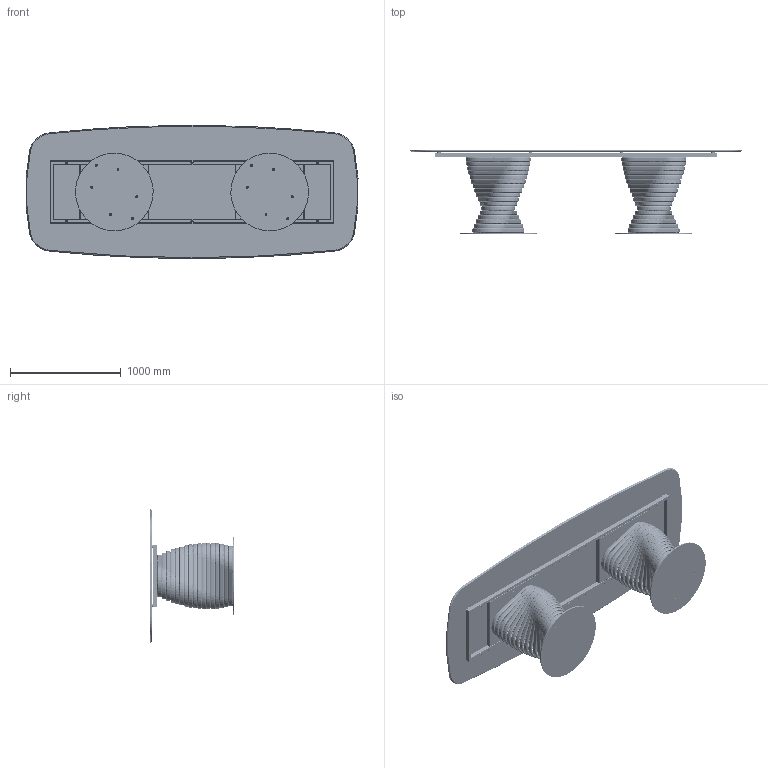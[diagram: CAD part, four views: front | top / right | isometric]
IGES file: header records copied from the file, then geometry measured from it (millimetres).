
Start section: SolidWorks IGES file using analytic representation for surfaces
Global section: file name: Y:\eforma\TECNICO\SOLIDWORKS\E-FORMA\1-TAVOLI\ROTOLO\02 parts\RO44C.IGS; native system: SolidWorks 2022; preprocessor: SolidWorks 2022; author: eforma.tech; date: 240807.152038; units: millimetre
Bounding box: 2991.72 x 758 x 1200 mm (x, y, z)
Volume: 77144474.7 mm3; surface area: 28069661.3 mm2
Topology: 187 solids, 187 shells, 2851 faces, 6701 edges, 4178 vertices
Faces by surface type: revolution 1683, plane 1168
